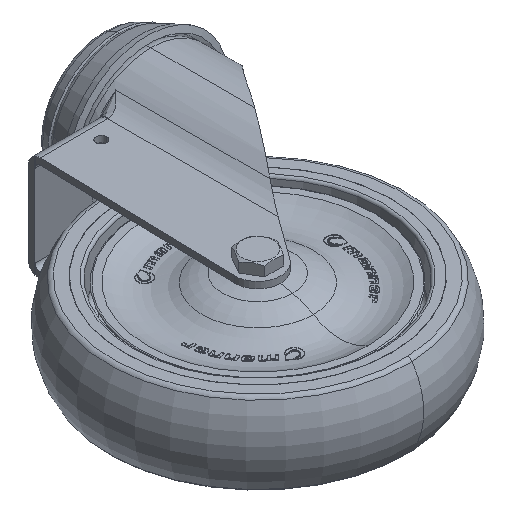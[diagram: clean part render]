
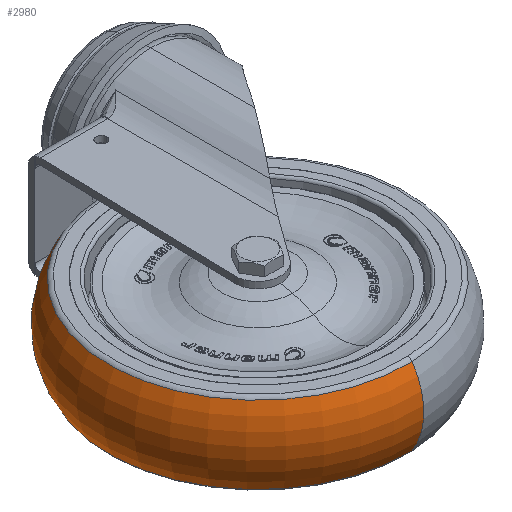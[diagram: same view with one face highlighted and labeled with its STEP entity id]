
A CAD part, isometric view. The second image highlights one B-rep face of the part: STEP entity #2980.
In plain terms, the highlighted toroidal (fillet/blend) face has major radius 34.5 mm and minor radius 28 mm.
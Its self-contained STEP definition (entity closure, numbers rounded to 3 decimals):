
#2933 = VERTEX_POINT ( 'NONE', #11070 ) ;
#2934 = VERTEX_POINT ( 'NONE', #11011 ) ;
#2937 = EDGE_LOOP ( 'NONE', ( #3025, #3024, #3030, #2979 ) ) ;
#2968 = VERTEX_POINT ( 'NONE', #11103 ) ;
#2977 = EDGE_CURVE ( 'NONE', #2978, #2968, #11110, .T. ) ;
#2978 = VERTEX_POINT ( 'NONE', #11128 ) ;
#2979 = ORIENTED_EDGE ( 'NONE', *, *, #3031, .F. ) ;
#2980 = ADVANCED_FACE ( 'NONE', ( #11127 ), #11137, .T. ) ;
#2991 = EDGE_CURVE ( 'NONE', #2934, #2933, #11083, .T. ) ;
#3024 = ORIENTED_EDGE ( 'NONE', *, *, #3026, .T. ) ;
#3025 = ORIENTED_EDGE ( 'NONE', *, *, #2991, .T. ) ;
#3026 = EDGE_CURVE ( 'NONE', #2933, #2968, #11233, .T. ) ;
#3030 = ORIENTED_EDGE ( 'NONE', *, *, #2977, .F. ) ;
#3031 = EDGE_CURVE ( 'NONE', #2934, #2978, #11223, .T. ) ;
#11011 = CARTESIAN_POINT ( 'NONE',  ( 69.667, -138.307, 126.259 ) ) ;
#11070 = CARTESIAN_POINT ( 'NONE',  ( 65.398, -22.197, 126.259 ) ) ;
#11083 = CIRCLE ( 'NONE', #11120, 58.094 ) ;
#11084 = CARTESIAN_POINT ( 'NONE',  ( 67.532, -80.252, 111.182 ) ) ;
#11103 = CARTESIAN_POINT ( 'NONE',  ( 65.398, -22.197, 96.105 ) ) ;
#11110 = CIRCLE ( 'NONE', #11130, 58.094 ) ;
#11118 = DIRECTION ( 'NONE',  ( 0.037, -0.999, 0. ) ) ;
#11120 = AXIS2_PLACEMENT_3D ( 'NONE', #11168, #11167, #11166 ) ;
#11124 = DIRECTION ( 'NONE',  ( 0.037, -0.999, 0. ) ) ;
#11125 = DIRECTION ( 'NONE',  ( 0., 0., -1. ) ) ;
#11126 = AXIS2_PLACEMENT_3D ( 'NONE', #11084, #11129, #11118 ) ;
#11127 = FACE_OUTER_BOUND ( 'NONE', #2937, .T. ) ;
#11128 = CARTESIAN_POINT ( 'NONE',  ( 69.667, -138.307, 96.105 ) ) ;
#11129 = DIRECTION ( 'NONE',  ( 0., 0., -1. ) ) ;
#11130 = AXIS2_PLACEMENT_3D ( 'NONE', #11139, #11125, #11124 ) ;
#11137 = TOROIDAL_SURFACE ( 'NONE', #11126, 34.5, 28. ) ;
#11139 = CARTESIAN_POINT ( 'NONE',  ( 67.532, -80.252, 96.105 ) ) ;
#11166 = DIRECTION ( 'NONE',  ( 0.037, -0.999, 0. ) ) ;
#11167 = DIRECTION ( 'NONE',  ( 0., 0., -1. ) ) ;
#11168 = CARTESIAN_POINT ( 'NONE',  ( 67.532, -80.252, 126.259 ) ) ;
#11173 = CARTESIAN_POINT ( 'NONE',  ( 66.265, -45.776, 111.182 ) ) ;
#11193 = AXIS2_PLACEMENT_3D ( 'NONE', #11173, #11231, #11230 ) ;
#11214 = DIRECTION ( 'NONE',  ( -0.037, 0.999, 0. ) ) ;
#11215 = DIRECTION ( 'NONE',  ( 0.999, 0.037, 0. ) ) ;
#11216 = CARTESIAN_POINT ( 'NONE',  ( 68.8, -114.729, 111.182 ) ) ;
#11217 = AXIS2_PLACEMENT_3D ( 'NONE', #11216, #11215, #11214 ) ;
#11223 = CIRCLE ( 'NONE', #11217, 28. ) ;
#11230 = DIRECTION ( 'NONE',  ( 0.037, -0.999, 0. ) ) ;
#11231 = DIRECTION ( 'NONE',  ( -0.999, -0.037, 0. ) ) ;
#11233 = CIRCLE ( 'NONE', #11193, 28. ) ;
